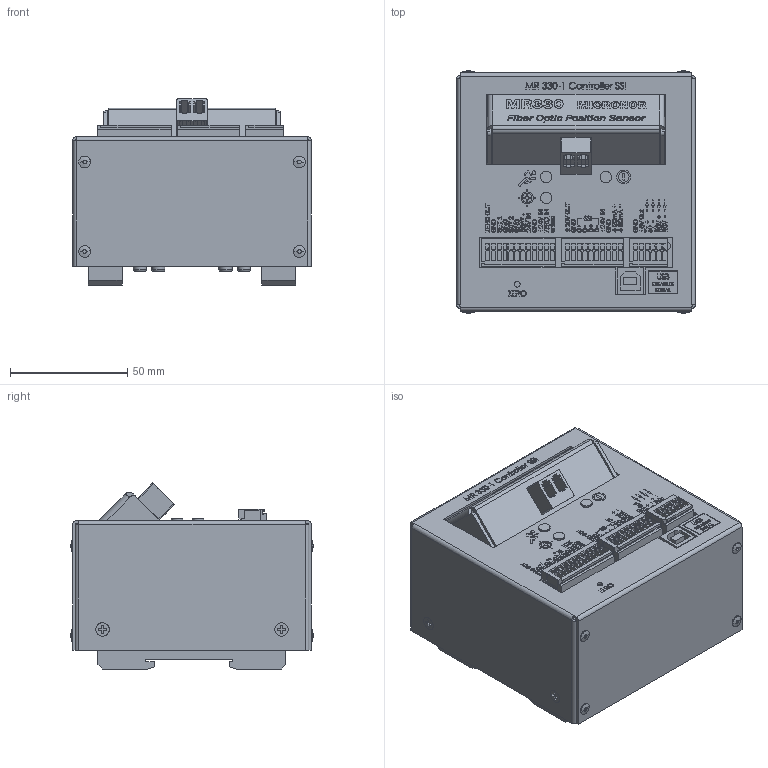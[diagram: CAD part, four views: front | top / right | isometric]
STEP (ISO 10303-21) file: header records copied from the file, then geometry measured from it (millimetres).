
FILE_DESCRIPTION (( 'STEP AP214' ), '1' );
FILE_NAME ('MR330.STEP', '2017-03-02T18:03:06', ( '' ), ( '' ), 'SwSTEP 2.0', 'SolidWorks 2016', '' );
FILE_SCHEMA (( 'AUTOMOTIVE_DESIGN' ));
Length unit declared in the file: inch
Products named in the file (1): MR330
Bounding box: 101.6 x 103.15 x 79.33 mm (x, y, z)
Surface area: 88830.2 mm2 (no closed solid volume)
Topology: 0 solids, 248 shells, 1202 faces, 7647 edges, 6669 vertices
Faces by surface type: plane 954, cylinder 182, bspline 42, sphere 16, torus 8
Entity records: 113986 total; most frequent: CARTESIAN_POINT 45123, ORIENTED_EDGE 9479, DIRECTION 8762, EDGE_CURVE 7647, VERTEX_POINT 6669, LINE 5300, VECTOR 5300, B_SPLINE_CURVE_WITH_KNOTS 1777
